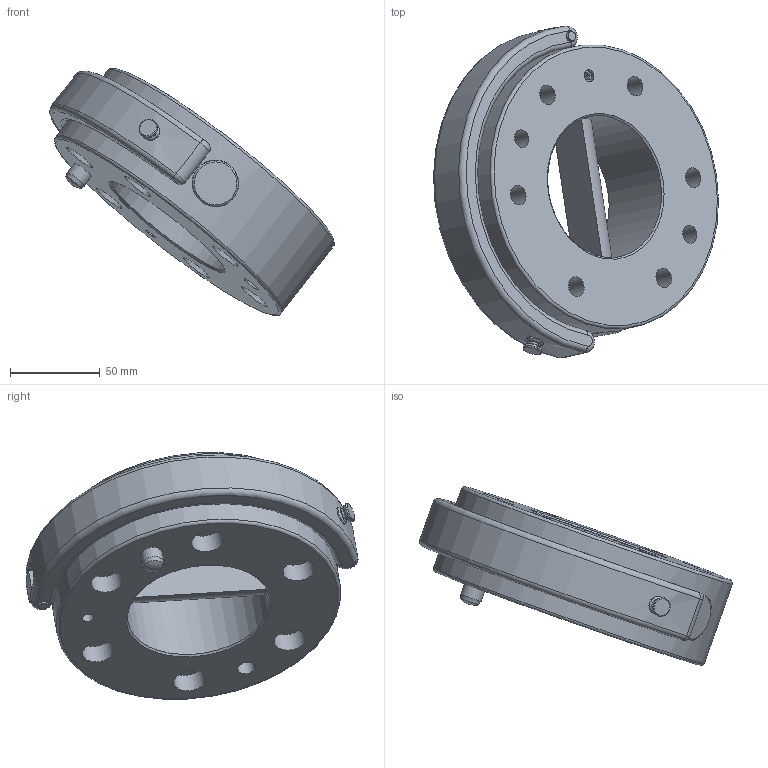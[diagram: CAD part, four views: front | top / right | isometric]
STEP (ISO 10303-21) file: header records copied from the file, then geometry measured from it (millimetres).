
FILE_DESCRIPTION((''),'2;1');
FILE_NAME('T:\CAD\Standard\Daten\3D-Datenbank\MGW\MGW160\step-Daten\G-MGW160-2O.stp','2011-05-12T14:46:00',('Yvonne'),(''),'Autodesk Inventor 2011','Autodesk Inventor 2011','');
FILE_SCHEMA(('AUTOMOTIVE_DESIGN { 1 0 10303 214 1 1 1 1 }'));
Length unit declared in the file: millimetre
Products named in the file (1): Bauteil10
Bounding box: 158.77 x 184.99 x 137.3 mm (x, y, z)
Volume: 815977 mm3; surface area: 107804.4 mm2
Topology: 1 solids, 2 shells, 139 faces, 318 edges, 199 vertices
Faces by surface type: cylinder 58, plane 50, cone 17, torus 12, sphere 2
Full cylindrical faces by diameter (mm): 5.5 x1, 5.58 x1, 6 x2, 6.2 x1, 6.5 x1, 6.647 x3, 10 x3, 10.1 x1, 10.6 x1, 11 x6, 12 x1, 18 x6, 26 x1, 80 x1, 160 x1
Entity records: 4106 total; most frequent: CARTESIAN_POINT 1025, DIRECTION 628, ORIENTED_EDGE 498, AXIS2_PLACEMENT_3D 279, EDGE_CURVE 249, EDGE_LOOP 228, VERTEX_POINT 181, STYLED_ITEM 140
